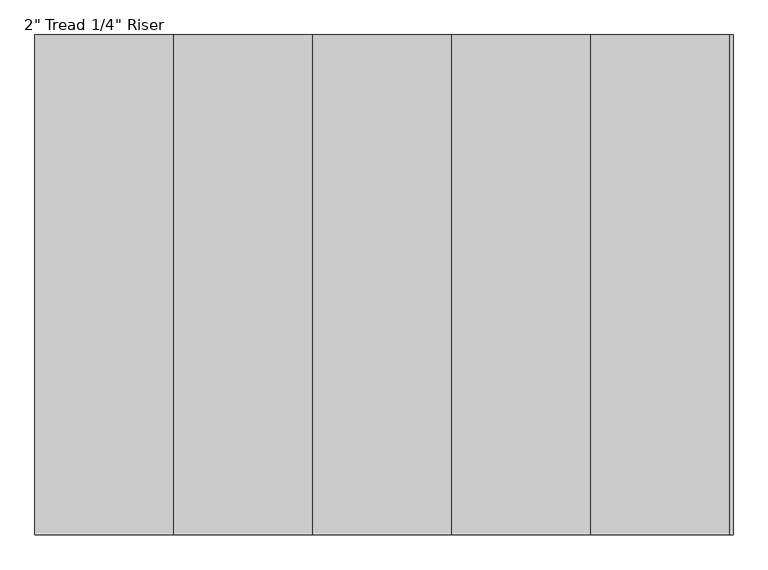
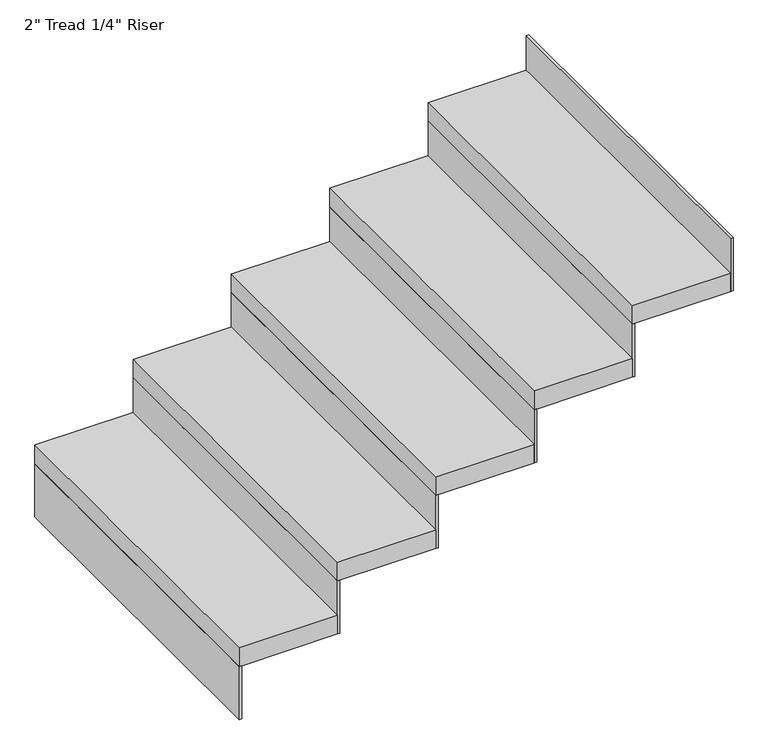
"""IFC4 building model written with IfcOpenShell, lengths in millimetres: stair flight geometry."""

from ifc_helpers import new_model, si_unit, frame, origin, place, context, project, spatial, polyline, outline, extrude, source, transform, mapped, element, save


def stair_flight_adbb388f(model_context):
    return source(origin(), model_context, "Body", "SweptSolid", [
        extrude(outline(polyline([(138169.4740883, 32332.2812523), (138163.1240883, 32332.2812523), (138163.1240883, 33246.6812523), (138169.4740883, 33246.6812523), (138169.4740883, 32332.2812523)])), frame((0.0, 0.0, 2126.3428571), z_axis=(0.0, 0.0, 1.0), x_axis=(1.0, 0.0, 0.0)), (0.0, 0.0, 1.0), 145.1428571),
        extrude(outline(polyline([(138417.1240883, 33246.6812523), (138417.1240883, 32332.2812523), (138163.1240883, 32332.2812523), (138163.1240883, 33246.6812523), (138417.1240883, 33246.6812523)])), frame((0.0, 0.0, 2271.4857143), z_axis=(0.0, 0.0, 1.0), x_axis=(1.0, 0.0, 0.0)), (0.0, 0.0, 1.0), 50.8),
        extrude(outline(polyline([(138423.4740883, 32332.2812523), (138417.1240883, 32332.2812523), (138417.1240883, 33246.6812523), (138423.4740883, 33246.6812523), (138423.4740883, 32332.2812523)])), frame((0.0, 0.0, 2271.4857143), z_axis=(0.0, 0.0, 1.0), x_axis=(1.0, 0.0, 0.0)), (0.0, 0.0, 1.0), 145.1428571),
        extrude(outline(polyline([(138671.1240883, 33246.6812523), (138671.1240883, 32332.2812523), (138417.1240883, 32332.2812523), (138417.1240883, 33246.6812523), (138671.1240883, 33246.6812523)])), frame((0.0, 0.0, 2416.6285714), z_axis=(0.0, 0.0, 1.0), x_axis=(1.0, 0.0, 0.0)), (0.0, 0.0, 1.0), 50.8),
        extrude(outline(polyline([(138677.4740883, 32332.2812523), (138671.1240883, 32332.2812523), (138671.1240883, 33246.6812523), (138677.4740883, 33246.6812523), (138677.4740883, 32332.2812523)])), frame((0.0, 0.0, 2416.6285714), z_axis=(0.0, 0.0, 1.0), x_axis=(1.0, 0.0, 0.0)), (0.0, 0.0, 1.0), 145.1428571),
        extrude(outline(polyline([(138925.1240883, 33246.6812523), (138925.1240883, 32332.2812523), (138671.1240883, 32332.2812523), (138671.1240883, 33246.6812523), (138925.1240883, 33246.6812523)])), frame((0.0, 0.0, 2561.7714286), z_axis=(0.0, 0.0, 1.0), x_axis=(1.0, 0.0, 0.0)), (0.0, 0.0, 1.0), 50.8),
        extrude(outline(polyline([(138931.4740883, 32332.2812523), (138925.1240883, 32332.2812523), (138925.1240883, 33246.6812523), (138931.4740883, 33246.6812523), (138931.4740883, 32332.2812523)])), frame((0.0, 0.0, 2561.7714286), z_axis=(0.0, 0.0, 1.0), x_axis=(1.0, 0.0, 0.0)), (0.0, 0.0, 1.0), 145.1428571),
        extrude(outline(polyline([(139179.1240883, 33246.6812523), (139179.1240883, 32332.2812523), (138925.1240883, 32332.2812523), (138925.1240883, 33246.6812523), (139179.1240883, 33246.6812523)])), frame((0.0, 0.0, 2706.9142857), z_axis=(0.0, 0.0, 1.0), x_axis=(1.0, 0.0, 0.0)), (0.0, 0.0, 1.0), 50.8),
        extrude(outline(polyline([(139185.4740883, 32332.2812523), (139179.1240883, 32332.2812523), (139179.1240883, 33246.6812523), (139185.4740883, 33246.6812523), (139185.4740883, 32332.2812523)])), frame((0.0, 0.0, 2706.9142857), z_axis=(0.0, 0.0, 1.0), x_axis=(1.0, 0.0, 0.0)), (0.0, 0.0, 1.0), 145.1428571),
        extrude(outline(polyline([(139439.4740883, 32332.2812523), (139433.1240883, 32332.2812523), (139433.1240883, 33246.6812523), (139439.4740883, 33246.6812523), (139439.4740883, 32332.2812523)])), frame((0.0, 0.0, 2852.0571429), z_axis=(0.0, 0.0, 1.0), x_axis=(1.0, 0.0, 0.0)), (0.0, 0.0, 1.0), 145.1428571),
        extrude(outline(polyline([(139433.1240883, 33246.6812523), (139433.1240883, 32332.2812523), (139179.1240883, 32332.2812523), (139179.1240883, 33246.6812523), (139433.1240883, 33246.6812523)])), frame((0.0, 0.0, 2852.0571429), z_axis=(0.0, 0.0, 1.0), x_axis=(1.0, 0.0, 0.0)), (0.0, 0.0, 1.0), 50.8),
    ])


if __name__ == "__main__":
    model = new_model("IFC4")
    model_context = context("Model", 3, world=origin())
    ifc_project = project(units=[si_unit("LENGTHUNIT", "METRE", prefix="MILLI")], contexts=[model_context])
    site = spatial("IfcSite", under=ifc_project)
    building = spatial("IfcBuilding", under=site)
    placement = place(None, origin())
    stair_flight_shape = stair_flight_adbb388f(model_context)
    element("IfcStairFlight", 1, ObjectType="2\" Tread 1/4\" Riser", at=placement, inside=building, context=model_context, shape_type="MappedRepresentation", body=[
        mapped(stair_flight_shape, transform((0.0, 0.0, 0.0), x_axis=(1.0, 0.0, 0.0), y_axis=(0.0, 1.0, 0.0), z_axis=(0.0, 0.0, 1.0))),
    ])
    save(model, "model.ifc")
